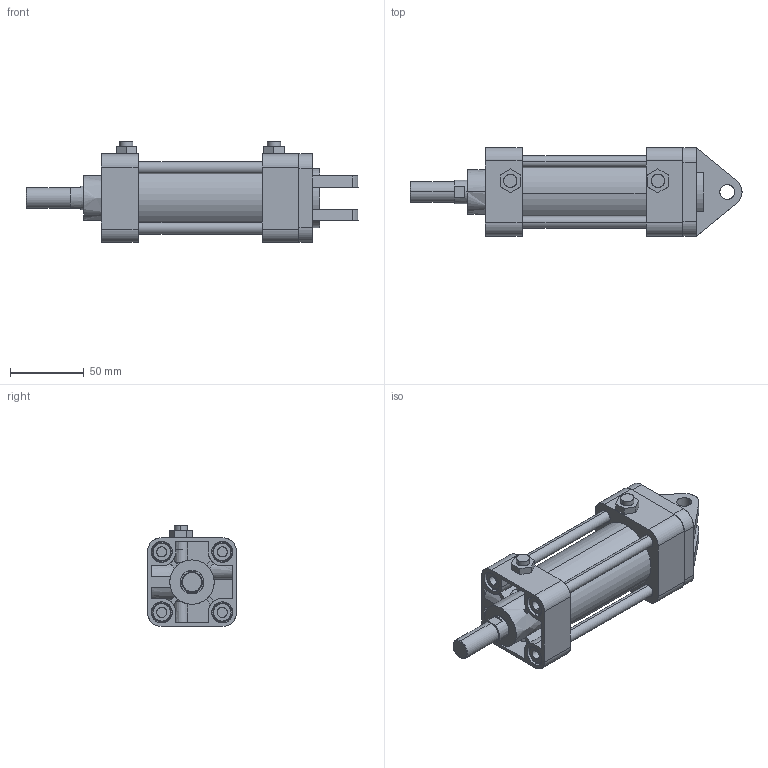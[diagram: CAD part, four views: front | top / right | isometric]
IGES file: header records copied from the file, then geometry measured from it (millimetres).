
Start section: SolidWorks IGES file using analytic representation for surfaces
Global section: file name: C:\Users\Toshiba\Desktop\KG2-40-50-W.IGS; native system: SolidWorks 2014; preprocessor: SolidWorks 2014; author: Toshiba; date: 160401.161041; units: millimetre
Bounding box: 225 x 60 x 68.3 mm (x, y, z)
Surface area: 98430.5 mm2 (no closed solid volume)
Topology: 0 solids, 0 shells, 404 faces, 5941 edges, 5907 vertices
Faces by surface type: revolution 211, bspline 193
